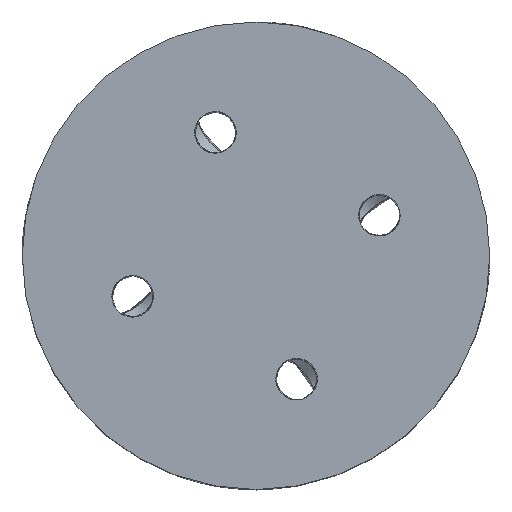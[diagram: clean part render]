
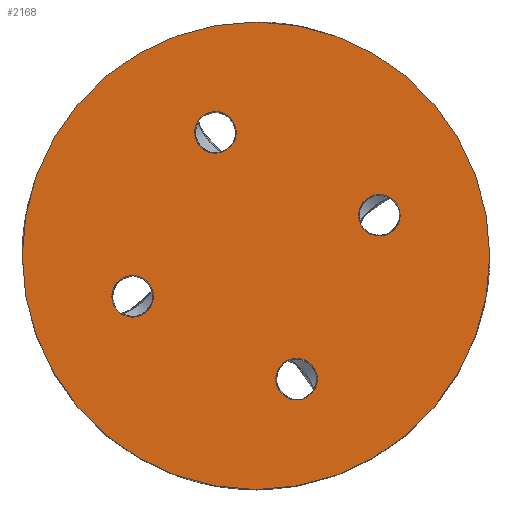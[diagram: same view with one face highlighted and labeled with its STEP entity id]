
A CAD part, top view. The second image highlights one B-rep face of the part: STEP entity #2168.
In plain terms, the highlighted planar face has unit normal (0, 0, 1).
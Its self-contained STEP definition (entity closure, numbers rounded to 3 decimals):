
#803=CARTESIAN_POINT('',(5.903,-11.875,25.0));
#804=VERTEX_POINT('',#803);
#805=CARTESIAN_POINT('',(3.903,-11.875,25.0));
#806=DIRECTION('',(0.0,0.0,-1.0));
#807=DIRECTION('',(1.0,0.0,0.0));
#808=AXIS2_PLACEMENT_3D('',#805,#806,#807);
#809=CIRCLE('',#808,2.0);
#810=EDGE_CURVE('',#804,#804,#809,.T.);
#929=CARTESIAN_POINT('',(13.875,3.903,25.0));
#930=VERTEX_POINT('',#929);
#931=CARTESIAN_POINT('',(11.875,3.903,25.0));
#932=DIRECTION('',(0.0,0.0,-1.0));
#933=DIRECTION('',(1.0,0.0,0.0));
#934=AXIS2_PLACEMENT_3D('',#931,#932,#933);
#935=CIRCLE('',#934,2.0);
#936=EDGE_CURVE('',#930,#930,#935,.T.);
#1055=CARTESIAN_POINT('',(-1.903,11.875,25.0));
#1056=VERTEX_POINT('',#1055);
#1057=CARTESIAN_POINT('',(-3.903,11.875,25.0));
#1058=DIRECTION('',(0.0,0.0,-1.0));
#1059=DIRECTION('',(1.0,0.0,0.0));
#1060=AXIS2_PLACEMENT_3D('',#1057,#1058,#1059);
#1061=CIRCLE('',#1060,2.0);
#1062=EDGE_CURVE('',#1056,#1056,#1061,.T.);
#1181=CARTESIAN_POINT('',(-9.875,-3.903,25.0));
#1182=VERTEX_POINT('',#1181);
#1183=CARTESIAN_POINT('',(-11.875,-3.903,25.0));
#1184=DIRECTION('',(0.0,0.0,-1.0));
#1185=DIRECTION('',(1.0,0.0,0.0));
#1186=AXIS2_PLACEMENT_3D('',#1183,#1184,#1185);
#1187=CIRCLE('',#1186,2.0);
#1188=EDGE_CURVE('',#1182,#1182,#1187,.T.);
#2113=CARTESIAN_POINT('',(22.5,0.,25.0));
#2114=VERTEX_POINT('',#2113);
#2115=CARTESIAN_POINT('',(0.0,0.0,25.0));
#2116=DIRECTION('',(0.0,0.0,-1.0));
#2117=DIRECTION('',(-1.0,0.0,0.0));
#2118=AXIS2_PLACEMENT_3D('',#2115,#2116,#2117);
#2119=CIRCLE('',#2118,22.5);
#2120=EDGE_CURVE('',#2114,#2114,#2119,.T.);
#2148=CARTESIAN_POINT('',(0.0,0.0,25.0));
#2149=DIRECTION('',(0.0,0.0,-1.0));
#2150=DIRECTION('',(-1.0,0.0,0.0));
#2151=AXIS2_PLACEMENT_3D('',#2148,#2149,#2150);
#2152=PLANE('',#2151);
#2153=ORIENTED_EDGE('',*,*,#2120,.F.);
#2154=EDGE_LOOP('',(#2153));
#2155=FACE_OUTER_BOUND('',#2154,.T.);
#2156=ORIENTED_EDGE('',*,*,#810,.T.);
#2157=EDGE_LOOP('',(#2156));
#2158=FACE_BOUND('',#2157,.T.);
#2159=ORIENTED_EDGE('',*,*,#936,.T.);
#2160=EDGE_LOOP('',(#2159));
#2161=FACE_BOUND('',#2160,.T.);
#2162=ORIENTED_EDGE('',*,*,#1062,.T.);
#2163=EDGE_LOOP('',(#2162));
#2164=FACE_BOUND('',#2163,.T.);
#2165=ORIENTED_EDGE('',*,*,#1188,.T.);
#2166=EDGE_LOOP('',(#2165));
#2167=FACE_BOUND('',#2166,.T.);
#2168=ADVANCED_FACE('',(#2155,#2158,#2161,#2164,#2167),#2152,.F.);
